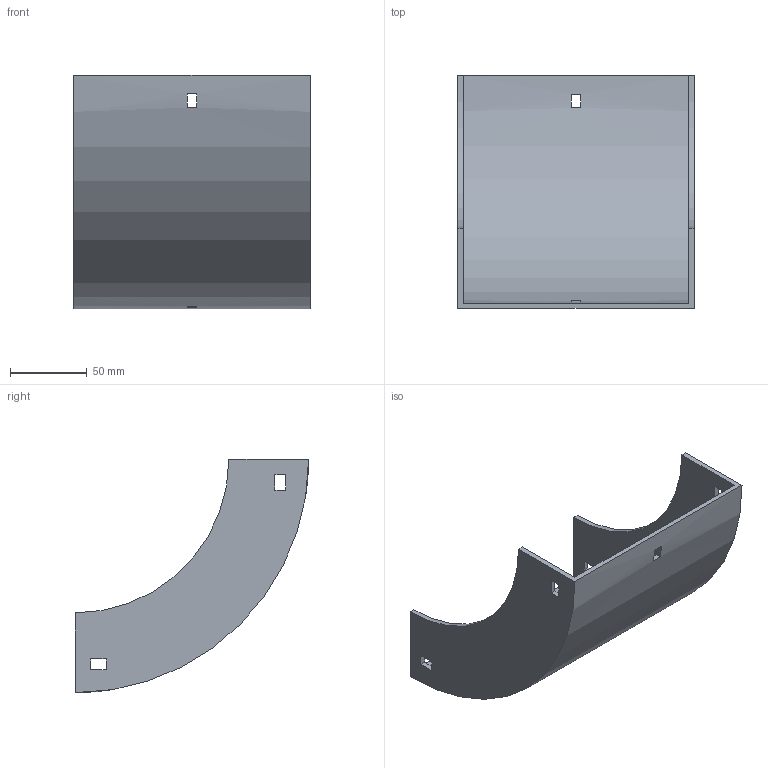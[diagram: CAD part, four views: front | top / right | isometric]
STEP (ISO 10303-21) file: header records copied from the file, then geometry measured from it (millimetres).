
FILE_DESCRIPTION (( 'STEP AP214' ), '1' );
FILE_NAME ('30B1B150.step', '2025-02-21T09:49:31', ( '' ), ( '' ), 'SwSTEP 2.0', 'SolidWorks 2023', '' );
FILE_SCHEMA (( 'AUTOMOTIVE_DESIGN' ));
Length unit declared in the file: millimetre
Products named in the file (1): 30B1B150
Bounding box: 154 x 152 x 152 mm (x, y, z)
Volume: 192079.2 mm3; surface area: 113329.7 mm2
Topology: 1 solids, 1 shells, 34 faces, 96 edges, 64 vertices
Faces by surface type: plane 30, cylinder 4
Entity records: 1143 total; most frequent: CARTESIAN_POINT 195, ORIENTED_EDGE 192, DIRECTION 182, EDGE_CURVE 96, VECTOR 80, LINE 80, VERTEX_POINT 64, AXIS2_PLACEMENT_3D 51
